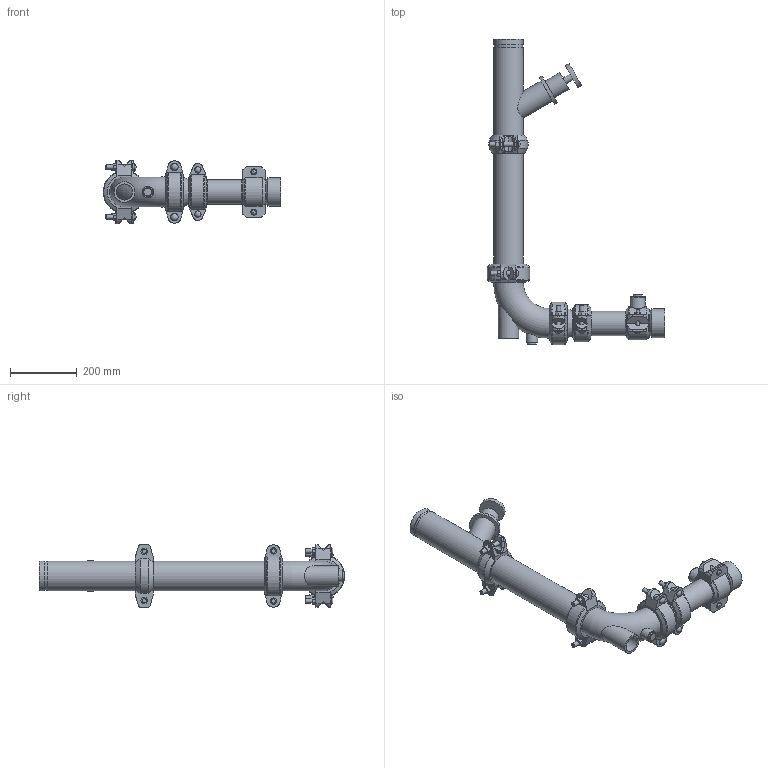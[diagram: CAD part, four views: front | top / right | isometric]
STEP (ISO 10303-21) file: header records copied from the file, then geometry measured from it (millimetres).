
FILE_DESCRIPTION(/* description */ ('VIC RVI SINGLE COIL AHU DROP LOW PROFILE SERIES 385I (OGSxFPT)','CAx-IF Rec.Pracs.---Representation and Presentation of Product Manufacturing Information (PMI)---4.0---2014-10-13'),/* implementation_level */ '2;1');
FILE_NAME(/* name */ 'C:\Users\kkamble\AppData\Roaming\Autodesk\ApplicationPlugins\Victaulic.Temp\A812\Victaulic_IPS_RVI_Single Coil_Low Profile_Series 385I (OGSxFPT)_03.0x02.5 (80x65).stp',/* time_stamp */ '2021-03-17T13:02:16+06:00',/* author */ ('Vjadhav'),/* organization */ ('Victaulic'),/* preprocessor_version */ 'ST-DEVELOPER v17.2',/* originating_system */ 'Autodesk Inventor 2019',/* authorisation */ '');
FILE_SCHEMA (('AP242_MANAGED_MODEL_BASED_3D_ENGINEERING_MIM_LF { 1 0 10303 442 1 1 4 }'));
Length unit declared in the file: inch
Products named in the file (11): 385I-03.0x02.5; 080-02.5; 072-02.5x0.75; Pipe-02.5; 177N-02.5; 050-03.0x02.5; 100G-03.0; 177N-03.0; Pipe_(11 9/16")-03.0; 107N-03.0; 789-03.0
Assembly tree (11 placements, depth 2):
  385I-03.0x02.5
    080-02.5
    072-02.5x0.75
    Pipe-02.5
    177N-02.5
    050-03.0x02.5
    177N-03.0  x2
    100G-03.0
    Pipe_(11 9/16")-03.0
    107N-03.0
    789-03.0
Bounding box: 530.35 x 911.35 x 190.5 mm (x, y, z)
Volume: 4345578.6 mm3; surface area: 1058938.1 mm2
Topology: 11 solids, 11 shells, 590 faces, 1600 edges, 1072 vertices
Faces by surface type: plane 311, cylinder 198, torus 28, cone 24, bspline 21, sphere 8
Full cylindrical faces by diameter (mm): 10.16 x4, 12.7 x10, 14.605 x2, 17.78 x2, 19.05 x3, 20.93 x2, 22.225 x6, 26.67 x3, 34.29 x1, 48.26 x1, 57.15 x1, 60.325 x1, 60.96 x1, 62.713 x3, 69.088 x4, 69.85 x1, 73.025 x11, 76.2 x4, 77.927 x5, 84.938 x7, 85.725 x1, 88.9 x16, 92.05 x1
Entity records: 18149 total; most frequent: CARTESIAN_POINT 4111, DIRECTION 2864, ORIENTED_EDGE 2704, EDGE_CURVE 1352, AXIS2_PLACEMENT_3D 1103, VERTEX_POINT 906, LINE 658, VECTOR 658
